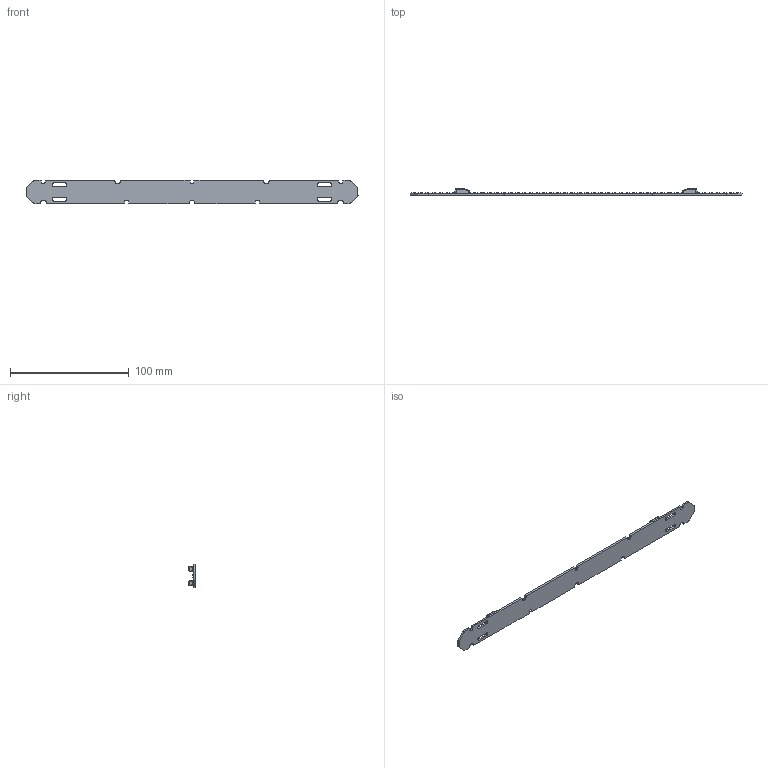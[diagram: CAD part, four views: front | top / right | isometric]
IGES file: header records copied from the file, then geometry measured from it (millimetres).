
Start section: SolidWorks IGES file using analytic representation for surfaces
Global section: file name: D:\ECTR_TEMP\OLQ-batchEngine\queue\temp\4163042swm000.igs; native system: SolidWorks 2017; preprocessor: SolidWorks 2017; author: SYSTEM; date: 200214.162518; units: millimetre
Bounding box: 279.5 x 5.55 x 20 mm (x, y, z)
Surface area: 13918.9 mm2 (no closed solid volume)
Topology: 0 solids, 0 shells, 1334 faces, 8460 edges, 8456 vertices
Faces by surface type: bspline 1160, revolution 174
